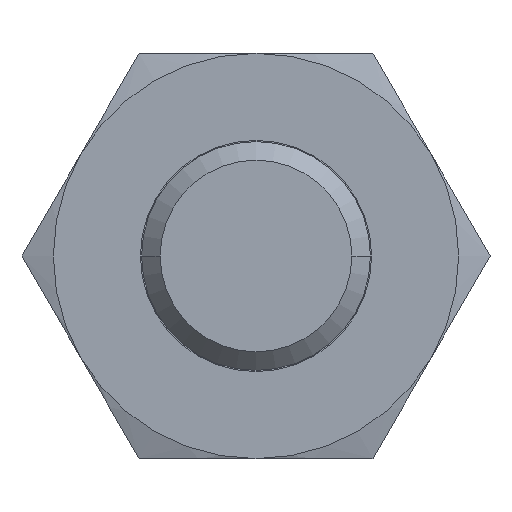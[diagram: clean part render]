
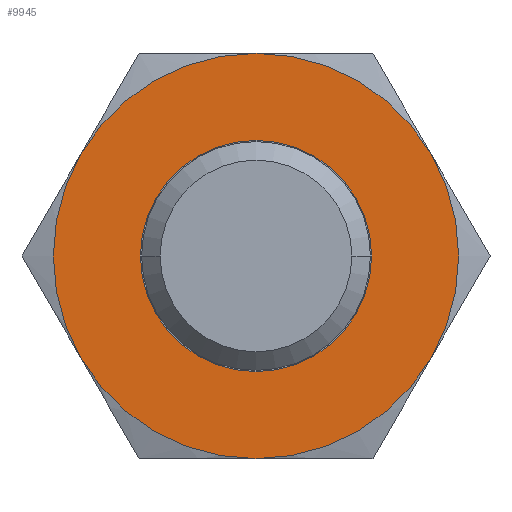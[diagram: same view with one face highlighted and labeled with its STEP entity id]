
A CAD part, left-side view. The second image highlights one B-rep face of the part: STEP entity #9945.
In plain terms, the highlighted free-form (B-spline) face has degree [1, 1] with [2, 2] control points.
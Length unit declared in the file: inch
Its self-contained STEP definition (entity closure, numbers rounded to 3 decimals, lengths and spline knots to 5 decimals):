
#1388=CARTESIAN_POINT('',(-0.2475,0.0,-0.4375));
#1389=VERTEX_POINT('',#1388);
#1423=CARTESIAN_POINT('',(-0.2475,0.,0.4375));
#1424=VERTEX_POINT('',#1423);
#1431=CARTESIAN_POINT('',(-0.2475,0.0,0.0));
#1432=DIRECTION('',(-1.0,0.0,0.0));
#1433=DIRECTION('',(0.0,0.0,-1.0));
#1434=AXIS2_PLACEMENT_3D('',#1431,#1432,#1433);
#1435=CIRCLE('',#1434,0.4375);
#1436=EDGE_CURVE('',#1389,#1424,#1435,.T.);
#1868=CARTESIAN_POINT('',(-0.2475,0.2495,0.0));
#1869=VERTEX_POINT('',#1868);
#1878=CARTESIAN_POINT('',(-0.2475,-0.2495,0.));
#1879=VERTEX_POINT('',#1878);
#1880=CARTESIAN_POINT('',(-0.2475,0.0,0.0));
#1881=DIRECTION('',(-1.0,0.0,0.0));
#1882=DIRECTION('',(0.0,1.0,0.0));
#1883=AXIS2_PLACEMENT_3D('',#1880,#1881,#1882);
#1884=CIRCLE('',#1883,0.2495);
#1885=EDGE_CURVE('',#1869,#1879,#1884,.T.);
#8673=CARTESIAN_POINT('',(-0.2475,0.0,0.0));
#8674=DIRECTION('',(-1.0,0.0,0.0));
#8675=DIRECTION('',(0.0,1.0,0.0));
#8676=AXIS2_PLACEMENT_3D('',#8673,#8674,#8675);
#8677=CIRCLE('',#8676,0.2495);
#8678=EDGE_CURVE('',#1879,#1869,#8677,.T.);
#9918=CARTESIAN_POINT('',(-0.2475,0.0,0.0));
#9919=DIRECTION('',(-1.0,0.0,0.0));
#9920=DIRECTION('',(0.0,0.0,-1.0));
#9921=AXIS2_PLACEMENT_3D('',#9918,#9919,#9920);
#9922=CIRCLE('',#9921,0.4375);
#9923=EDGE_CURVE('',#1424,#1389,#9922,.T.);
#9932=CARTESIAN_POINT('',(-0.2475,0.4375,0.4375));
#9933=CARTESIAN_POINT('',(-0.2475,0.4375,-0.4375));
#9934=CARTESIAN_POINT('',(-0.2475,-0.4375,0.4375));
#9935=CARTESIAN_POINT('',(-0.2475,-0.4375,-0.4375));
#9936=B_SPLINE_SURFACE_WITH_KNOTS('',1,1,((#9932,#9934),(#9933,#9935)),.UNSPECIFIED.,.F.,.F.,.U.,(2,2),(2,2),(0.0,0.875),(0.0,0.875),.UNSPECIFIED.);
#9937=ORIENTED_EDGE('',*,*,#1436,.T.);
#9938=ORIENTED_EDGE('',*,*,#9923,.T.);
#9939=EDGE_LOOP('',(#9937,#9938));
#9940=FACE_OUTER_BOUND('',#9939,.T.);
#9941=ORIENTED_EDGE('',*,*,#1885,.F.);
#9942=ORIENTED_EDGE('',*,*,#8678,.F.);
#9943=EDGE_LOOP('',(#9941,#9942));
#9944=FACE_BOUND('',#9943,.T.);
#9945=ADVANCED_FACE('',(#9940,#9944),#9936,.T.);
